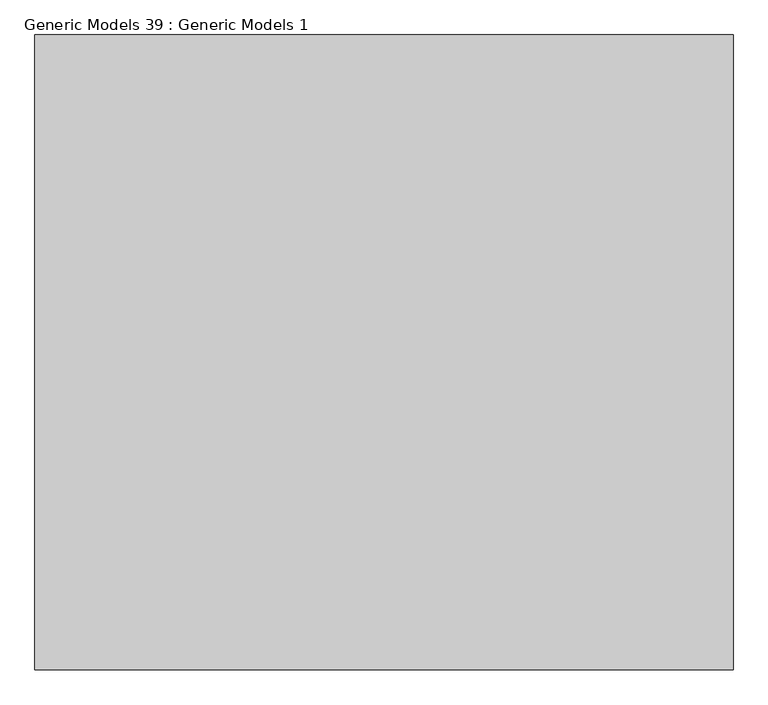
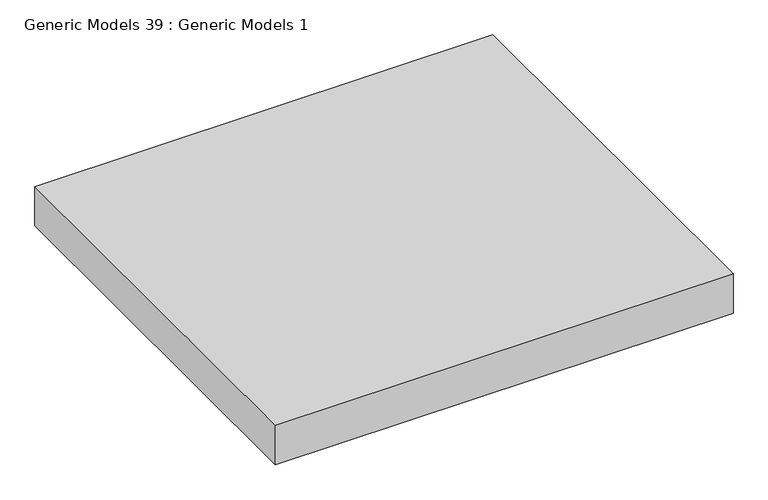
"""IFC4 building model written with IfcOpenShell, lengths in millimetres: proxy geometry, Generic Models 39 : Generic Models 1."""

from ifc_helpers import new_model, si_unit, origin, origin_with_axes, place, context, project, spatial, polyline, outline, extrude, source, transform, mapped, element, save


def generic_models_39_generic_models_1_207fc2ec(model_context):
    return source(origin(), model_context, "Body", "SweptSolid", [
        extrude(outline(polyline([(9741.0810265, -7746.5772826), (9741.0810265, -6746.5772826), (10841.0810265, -6746.5772826), (10841.0810265, -7746.5772826), (9741.0810265, -7746.5772826)])), origin_with_axes(), (0.0, 0.0, 1.0), 100.0),
    ])


if __name__ == "__main__":
    model = new_model("IFC4")
    model_context = context("Model", 3, world=origin())
    ifc_project = project(units=[si_unit("LENGTHUNIT", "METRE", prefix="MILLI")], contexts=[model_context])
    site = spatial("IfcSite", under=ifc_project)
    building = spatial("IfcBuilding", under=site)
    placement = place(None, origin())
    generic_models_39_generic_models_1_shape = generic_models_39_generic_models_1_207fc2ec(model_context)
    element("IfcBuildingElementProxy", 1, Name="Generic Models 39 : Generic Models 1", ObjectType="Generic Models 39 : Generic Models 1", at=placement, inside=building, context=model_context, shape_type="MappedRepresentation", body=[
        mapped(generic_models_39_generic_models_1_shape, transform((0.0, 0.0, 0.0), x_axis=(1.0, 0.0, 0.0), y_axis=(0.0, 1.0, 0.0), z_axis=(0.0, 0.0, 1.0))),
    ])
    save(model, "model.ifc")
